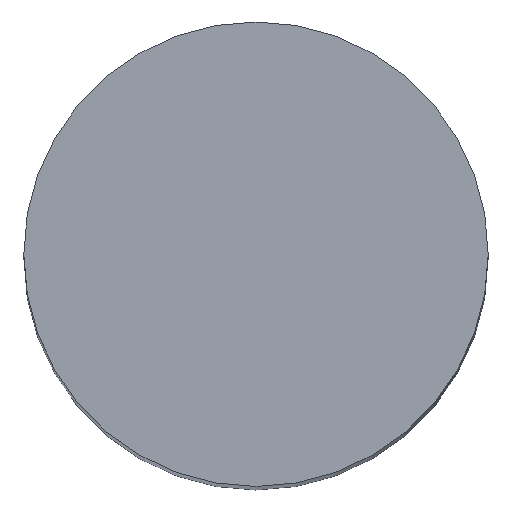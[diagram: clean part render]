
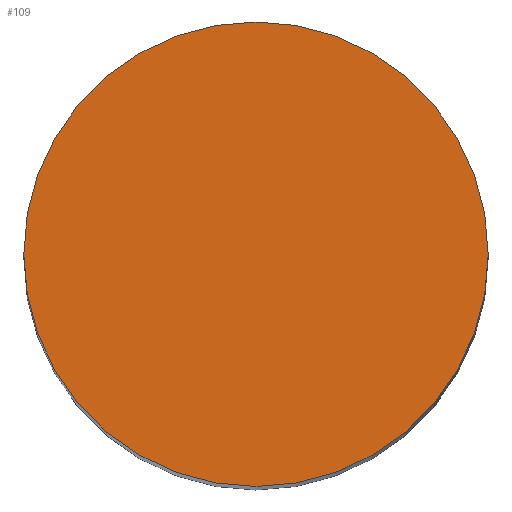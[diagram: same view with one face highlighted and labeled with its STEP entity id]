
A CAD part, top view. The second image highlights one B-rep face of the part: STEP entity #109.
In plain terms, the highlighted planar face has unit normal (0, 0, 1).
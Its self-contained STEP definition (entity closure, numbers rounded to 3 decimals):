
#24 = VERTEX_POINT('',#25);
#25 = CARTESIAN_POINT('',(8.,0.,70.));
#32 = CYLINDRICAL_SURFACE('',#33,8.);
#33 = AXIS2_PLACEMENT_3D('',#34,#35,#36);
#34 = CARTESIAN_POINT('',(0.,0.,0.));
#35 = DIRECTION('',(-0.,-0.,-1.));
#36 = DIRECTION('',(1.,0.,-0.));
#51 = EDGE_CURVE('',#24,#24,#52,.T.);
#52 = SURFACE_CURVE('',#53,(#58,#65),.PCURVE_S1.);
#53 = CIRCLE('',#54,8.);
#54 = AXIS2_PLACEMENT_3D('',#55,#56,#57);
#55 = CARTESIAN_POINT('',(0.,0.,70.));
#56 = DIRECTION('',(0.,0.,1.));
#57 = DIRECTION('',(1.,0.,-0.));
#58 = PCURVE('',#32,#59);
#59 = DEFINITIONAL_REPRESENTATION('',(#60),#64);
#60 = LINE('',#61,#62);
#61 = CARTESIAN_POINT('',(-0.,-70.));
#62 = VECTOR('',#63,1.);
#63 = DIRECTION('',(-1.,0.));
#64 = ( GEOMETRIC_REPRESENTATION_CONTEXT(2) 
PARAMETRIC_REPRESENTATION_CONTEXT() REPRESENTATION_CONTEXT('2D SPACE',''
  ) );
#65 = PCURVE('',#66,#71);
#66 = PLANE('',#67);
#67 = AXIS2_PLACEMENT_3D('',#68,#69,#70);
#68 = CARTESIAN_POINT('',(0.,0.,70.));
#69 = DIRECTION('',(0.,0.,1.));
#70 = DIRECTION('',(1.,0.,-0.));
#71 = DEFINITIONAL_REPRESENTATION('',(#72),#76);
#72 = CIRCLE('',#73,8.);
#73 = AXIS2_PLACEMENT_2D('',#74,#75);
#74 = CARTESIAN_POINT('',(0.,0.));
#75 = DIRECTION('',(1.,0.));
#76 = ( GEOMETRIC_REPRESENTATION_CONTEXT(2) 
PARAMETRIC_REPRESENTATION_CONTEXT() REPRESENTATION_CONTEXT('2D SPACE',''
  ) );
#109 = ADVANCED_FACE('',(#110),#66,.T.);
#110 = FACE_BOUND('',#111,.T.);
#111 = EDGE_LOOP('',(#112));
#112 = ORIENTED_EDGE('',*,*,#51,.T.);
